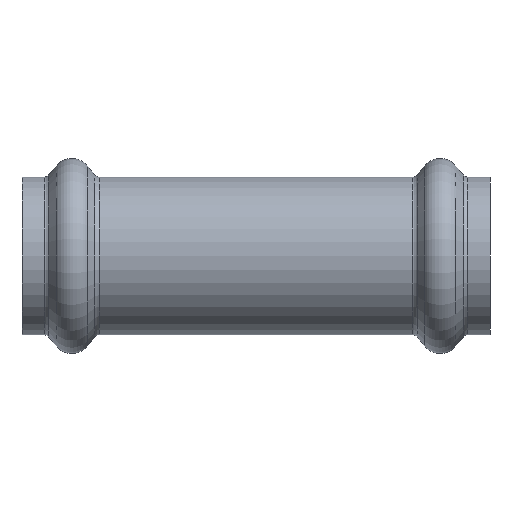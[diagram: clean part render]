
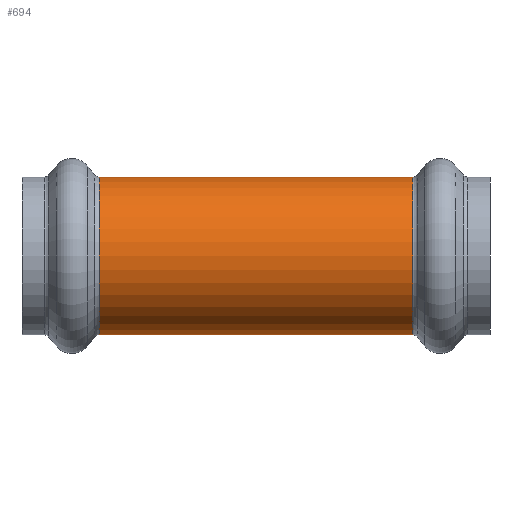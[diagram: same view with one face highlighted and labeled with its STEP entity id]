
A CAD part, front view. The second image highlights one B-rep face of the part: STEP entity #694.
In plain terms, the highlighted cylindrical face has radius 19.469 mm (diameter 38.938 mm), a full revolution.
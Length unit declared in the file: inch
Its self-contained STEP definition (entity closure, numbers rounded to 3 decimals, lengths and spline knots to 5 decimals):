
#51=CYLINDRICAL_SURFACE('',#788,0.7665);
#61=LINE('',#1256,#75);
#75=VECTOR('',#994,0.7665);
#104=FACE_OUTER_BOUND('',#133,.T.);
#133=EDGE_LOOP('',(#525,#526,#527,#528,#529,#530,#531,#532));
#192=CIRCLE('',#785,0.7665);
#193=CIRCLE('',#786,0.7665);
#194=CIRCLE('',#787,0.7665);
#195=CIRCLE('',#789,0.7665);
#196=CIRCLE('',#790,0.7665);
#197=CIRCLE('',#791,0.7665);
#278=VERTEX_POINT('',#1243);
#279=VERTEX_POINT('',#1245);
#280=VERTEX_POINT('',#1247);
#281=VERTEX_POINT('',#1251);
#282=VERTEX_POINT('',#1252);
#283=VERTEX_POINT('',#1254);
#370=EDGE_CURVE('',#279,#278,#192,.T.);
#371=EDGE_CURVE('',#280,#279,#193,.T.);
#372=EDGE_CURVE('',#278,#280,#194,.T.);
#373=EDGE_CURVE('',#281,#282,#195,.T.);
#374=EDGE_CURVE('',#283,#281,#196,.T.);
#375=EDGE_CURVE('',#283,#280,#61,.T.);
#376=EDGE_CURVE('',#282,#283,#197,.T.);
#525=ORIENTED_EDGE('',*,*,#373,.F.);
#526=ORIENTED_EDGE('',*,*,#374,.F.);
#527=ORIENTED_EDGE('',*,*,#375,.T.);
#528=ORIENTED_EDGE('',*,*,#371,.T.);
#529=ORIENTED_EDGE('',*,*,#370,.T.);
#530=ORIENTED_EDGE('',*,*,#372,.T.);
#531=ORIENTED_EDGE('',*,*,#375,.F.);
#532=ORIENTED_EDGE('',*,*,#376,.F.);
#694=ADVANCED_FACE('',(#104),#51,.T.);
#785=AXIS2_PLACEMENT_3D('',#1246,#982,#983);
#786=AXIS2_PLACEMENT_3D('',#1248,#984,#985);
#787=AXIS2_PLACEMENT_3D('',#1249,#986,#987);
#788=AXIS2_PLACEMENT_3D('',#1250,#988,#989);
#789=AXIS2_PLACEMENT_3D('',#1253,#990,#991);
#790=AXIS2_PLACEMENT_3D('',#1255,#992,#993);
#791=AXIS2_PLACEMENT_3D('',#1257,#995,#996);
#982=DIRECTION('center_axis',(1.,0.,0.));
#983=DIRECTION('ref_axis',(0.,1.,0.));
#984=DIRECTION('center_axis',(1.,0.,0.));
#985=DIRECTION('ref_axis',(0.,1.,0.));
#986=DIRECTION('center_axis',(1.,0.,0.));
#987=DIRECTION('ref_axis',(0.,1.,0.));
#988=DIRECTION('center_axis',(1.,0.,0.));
#989=DIRECTION('ref_axis',(0.,1.,0.));
#990=DIRECTION('center_axis',(1.,0.,0.));
#991=DIRECTION('ref_axis',(0.,1.,0.));
#992=DIRECTION('center_axis',(1.,0.,0.));
#993=DIRECTION('ref_axis',(0.,1.,0.));
#994=DIRECTION('',(-1.,0.,0.));
#995=DIRECTION('center_axis',(1.,0.,0.));
#996=DIRECTION('ref_axis',(0.,1.,0.));
#1243=CARTESIAN_POINT('',(-1.52228,0.,0.7665));
#1245=CARTESIAN_POINT('',(-1.52228,0.7665,0.));
#1246=CARTESIAN_POINT('Origin',(-1.52228,0.,
0.));
#1247=CARTESIAN_POINT('',(-1.52228,-0.7665,0.));
#1248=CARTESIAN_POINT('Origin',(-1.52228,0.,
0.));
#1249=CARTESIAN_POINT('Origin',(-1.52228,0.,
0.));
#1250=CARTESIAN_POINT('Origin',(0.76114,0.,0.));
#1251=CARTESIAN_POINT('',(1.52228,0.7665,0.));
#1252=CARTESIAN_POINT('',(1.52228,0.,0.7665));
#1253=CARTESIAN_POINT('Origin',(1.52228,0.,0.));
#1254=CARTESIAN_POINT('',(1.52228,-0.7665,0.));
#1255=CARTESIAN_POINT('Origin',(1.52228,0.,0.));
#1256=CARTESIAN_POINT('',(0.76114,-0.7665,0.));
#1257=CARTESIAN_POINT('Origin',(1.52228,0.,0.));
